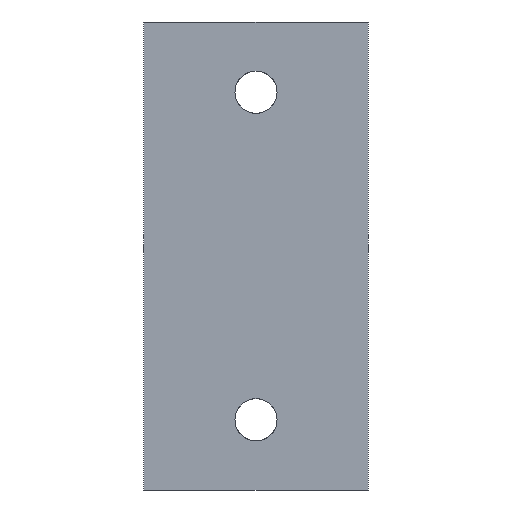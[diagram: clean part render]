
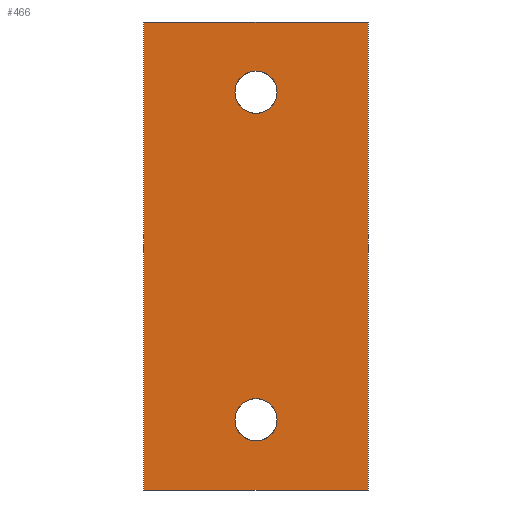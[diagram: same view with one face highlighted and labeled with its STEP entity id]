
A CAD part, front view. The second image highlights one B-rep face of the part: STEP entity #466.
In plain terms, the highlighted face is a extrusion surface.
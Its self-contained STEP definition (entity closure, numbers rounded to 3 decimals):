
#355=CARTESIAN_POINT('Control Point',(-48.,0.,0.)) ;
#356=CARTESIAN_POINT('Control Point',(-48.,0.,-100.)) ;
#360=CARTESIAN_POINT('Line Origine',(-24.,0.,-100.)) ;
#364=CARTESIAN_POINT('Vertex',(-48.,0.,-100.)) ;
#366=CARTESIAN_POINT('Vertex',(0.,0.,-100.)) ;
#369=CARTESIAN_POINT('Line Origine',(0.,0.,-50.)) ;
#373=CARTESIAN_POINT('Vertex',(0.,0.,0.)) ;
#376=CARTESIAN_POINT('Line Origine',(-24.,0.,0.)) ;
#380=CARTESIAN_POINT('Vertex',(-48.,0.,0.)) ;
#383=CARTESIAN_POINT('Line Origine',(-48.,0.,-50.)) ;
#395=CARTESIAN_POINT('Control Point',(-19.5,0.,-85.)) ;
#396=CARTESIAN_POINT('Control Point',(-19.5,0.,-86.247)) ;
#397=CARTESIAN_POINT('Control Point',(-19.932,0.,-87.494)) ;
#398=CARTESIAN_POINT('Control Point',(-20.8,0.,-88.539)) ;
#399=CARTESIAN_POINT('Control Point',(-22.71,0.,-89.63)) ;
#400=CARTESIAN_POINT('Control Point',(-24.841,0.,-89.54)) ;
#401=CARTESIAN_POINT('Control Point',(-25.671,0.,-89.305)) ;
#402=CARTESIAN_POINT('Control Point',(-27.085,0.,-88.511)) ;
#403=CARTESIAN_POINT('Control Point',(-28.032,0.,-87.204)) ;
#404=CARTESIAN_POINT('Control Point',(-28.344,0.,-86.498)) ;
#405=CARTESIAN_POINT('Control Point',(-28.5,0.,-85.749)) ;
#406=CARTESIAN_POINT('Control Point',(-28.5,0.,-85.)) ;
#407=CARTESIAN_POINT('Vertex',(-19.5,0.,-85.)) ;
#409=CARTESIAN_POINT('Vertex',(-28.5,0.,-85.)) ;
#413=CARTESIAN_POINT('Control Point',(-28.5,0.,-85.)) ;
#414=CARTESIAN_POINT('Control Point',(-28.5,0.,-83.753)) ;
#415=CARTESIAN_POINT('Control Point',(-28.068,0.,-82.506)) ;
#416=CARTESIAN_POINT('Control Point',(-27.2,0.,-81.461)) ;
#417=CARTESIAN_POINT('Control Point',(-25.29,0.,-80.37)) ;
#418=CARTESIAN_POINT('Control Point',(-23.159,0.,-80.46)) ;
#419=CARTESIAN_POINT('Control Point',(-22.329,0.,-80.695)) ;
#420=CARTESIAN_POINT('Control Point',(-20.915,0.,-81.489)) ;
#421=CARTESIAN_POINT('Control Point',(-19.968,0.,-82.796)) ;
#422=CARTESIAN_POINT('Control Point',(-19.656,0.,-83.502)) ;
#423=CARTESIAN_POINT('Control Point',(-19.5,0.,-84.251)) ;
#424=CARTESIAN_POINT('Control Point',(-19.5,0.,-85.)) ;
#431=CARTESIAN_POINT('Control Point',(-19.5,0.,-15.)) ;
#432=CARTESIAN_POINT('Control Point',(-19.5,0.,-16.247)) ;
#433=CARTESIAN_POINT('Control Point',(-19.932,0.,-17.494)) ;
#434=CARTESIAN_POINT('Control Point',(-20.8,0.,-18.539)) ;
#435=CARTESIAN_POINT('Control Point',(-22.71,0.,-19.63)) ;
#436=CARTESIAN_POINT('Control Point',(-24.841,0.,-19.54)) ;
#437=CARTESIAN_POINT('Control Point',(-25.671,0.,-19.305)) ;
#438=CARTESIAN_POINT('Control Point',(-27.085,0.,-18.511)) ;
#439=CARTESIAN_POINT('Control Point',(-28.032,0.,-17.204)) ;
#440=CARTESIAN_POINT('Control Point',(-28.344,0.,-16.498)) ;
#441=CARTESIAN_POINT('Control Point',(-28.5,0.,-15.749)) ;
#442=CARTESIAN_POINT('Control Point',(-28.5,0.,-15.)) ;
#443=CARTESIAN_POINT('Vertex',(-19.5,0.,-15.)) ;
#445=CARTESIAN_POINT('Vertex',(-28.5,0.,-15.)) ;
#449=CARTESIAN_POINT('Control Point',(-28.5,0.,-15.)) ;
#450=CARTESIAN_POINT('Control Point',(-28.5,0.,-13.753)) ;
#451=CARTESIAN_POINT('Control Point',(-28.068,0.,-12.506)) ;
#452=CARTESIAN_POINT('Control Point',(-27.2,0.,-11.461)) ;
#453=CARTESIAN_POINT('Control Point',(-25.29,0.,-10.37)) ;
#454=CARTESIAN_POINT('Control Point',(-23.159,0.,-10.46)) ;
#455=CARTESIAN_POINT('Control Point',(-22.329,0.,-10.695)) ;
#456=CARTESIAN_POINT('Control Point',(-20.915,0.,-11.489)) ;
#457=CARTESIAN_POINT('Control Point',(-19.968,0.,-12.796)) ;
#458=CARTESIAN_POINT('Control Point',(-19.656,0.,-13.502)) ;
#459=CARTESIAN_POINT('Control Point',(-19.5,0.,-14.251)) ;
#460=CARTESIAN_POINT('Control Point',(-19.5,0.,-15.)) ;
#357=DIRECTION('Vector Direction',(1.,0.,0.)) ;
#361=DIRECTION('Vector Direction',(1.,0.,0.)) ;
#370=DIRECTION('Vector Direction',(0.,0.,-1.)) ;
#377=DIRECTION('Vector Direction',(1.,0.,0.)) ;
#384=DIRECTION('Vector Direction',(0.,0.,-1.)) ;
#389=ORIENTED_EDGE('',*,*,#368,.T.) ;
#390=ORIENTED_EDGE('',*,*,#375,.T.) ;
#391=ORIENTED_EDGE('',*,*,#382,.T.) ;
#392=ORIENTED_EDGE('',*,*,#387,.T.) ;
#427=ORIENTED_EDGE('',*,*,#411,.T.) ;
#428=ORIENTED_EDGE('',*,*,#425,.T.) ;
#463=ORIENTED_EDGE('',*,*,#447,.T.) ;
#464=ORIENTED_EDGE('',*,*,#461,.T.) ;
#429=FACE_BOUND('',#426,.T.) ;
#465=FACE_BOUND('',#462,.T.) ;
#358=VECTOR('Extrusion Surface Vector',#357,1.) ;
#362=VECTOR('Line Direction',#361,1.) ;
#371=VECTOR('Line Direction',#370,1.) ;
#378=VECTOR('Line Direction',#377,1.) ;
#385=VECTOR('Line Direction',#384,1.) ;
#466=ADVANCED_FACE('Superficie.6',(#393,#429,#465),#359,.T.) ;
#354=B_SPLINE_CURVE_WITH_KNOTS('',1,(#355,#356),.UNSPECIFIED.,.F.,.U.,(2,2),(-50.,50.),.UNSPECIFIED.) ;
#394=B_SPLINE_CURVE_WITH_KNOTS('',5,(#395,#396,#397,#398,#399,#400,#401,#402,#403,#404,#405,#406),.UNSPECIFIED.,.F.,.U.,(6,3,3,6),(0.,8.818,14.697,19.993),.UNSPECIFIED.) ;
#412=B_SPLINE_CURVE_WITH_KNOTS('',5,(#413,#414,#415,#416,#417,#418,#419,#420,#421,#422,#423,#424),.UNSPECIFIED.,.F.,.U.,(6,3,3,6),(0.,8.818,14.697,19.993),.UNSPECIFIED.) ;
#430=B_SPLINE_CURVE_WITH_KNOTS('',5,(#431,#432,#433,#434,#435,#436,#437,#438,#439,#440,#441,#442),.UNSPECIFIED.,.F.,.U.,(6,3,3,6),(0.,8.818,14.697,19.993),.UNSPECIFIED.) ;
#448=B_SPLINE_CURVE_WITH_KNOTS('',5,(#449,#450,#451,#452,#453,#454,#455,#456,#457,#458,#459,#460),.UNSPECIFIED.,.F.,.U.,(6,3,3,6),(0.,8.818,14.697,19.993),.UNSPECIFIED.) ;
#368=EDGE_CURVE('',#365,#367,#363,.T.) ;
#375=EDGE_CURVE('',#367,#374,#372,.F.) ;
#382=EDGE_CURVE('',#374,#381,#379,.F.) ;
#387=EDGE_CURVE('',#381,#365,#386,.T.) ;
#411=EDGE_CURVE('',#408,#410,#394,.T.) ;
#425=EDGE_CURVE('',#410,#408,#412,.T.) ;
#447=EDGE_CURVE('',#444,#446,#430,.T.) ;
#461=EDGE_CURVE('',#446,#444,#448,.T.) ;
#388=EDGE_LOOP('',(#389,#390,#391,#392)) ;
#426=EDGE_LOOP('',(#427,#428)) ;
#462=EDGE_LOOP('',(#463,#464)) ;
#393=FACE_OUTER_BOUND('',#388,.T.) ;
#363=LINE('Line',#360,#362) ;
#372=LINE('Line',#369,#371) ;
#379=LINE('Line',#376,#378) ;
#386=LINE('Line',#383,#385) ;
#359=SURFACE_OF_LINEAR_EXTRUSION('generated tabulated cylinder',#354,#358) ;
#365=VERTEX_POINT('',#364) ;
#367=VERTEX_POINT('',#366) ;
#374=VERTEX_POINT('',#373) ;
#381=VERTEX_POINT('',#380) ;
#408=VERTEX_POINT('',#407) ;
#410=VERTEX_POINT('',#409) ;
#444=VERTEX_POINT('',#443) ;
#446=VERTEX_POINT('',#445) ;
